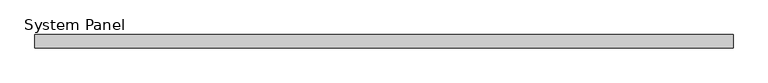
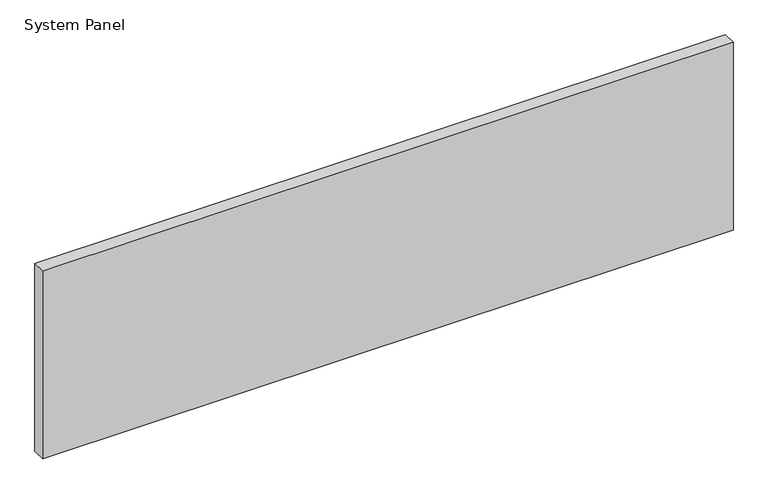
"""IFC4 building model written with IfcOpenShell, lengths in millimetres: plate geometry, System Panel : Glazed - ACMP (AL-1)."""

from ifc_helpers import new_model, si_unit, origin, origin_with_axes, place, context, project, spatial, polyline, outline, extrude, source, transform, mapped, element, save


def system_panel_4e23bdb2(model_context):
    return source(origin(), model_context, "Body", "SweptSolid", [
        extrude(outline(polyline([(664.1925819, 0.0), (-664.1925819, 0.0), (-664.1925819, 25.4), (664.1925819, 25.4), (664.1925819, 0.0)])), origin_with_axes(), (0.0, 0.0, 1.0), 382.2704451),
    ])


if __name__ == "__main__":
    model = new_model("IFC4")
    model_context = context("Model", 3, world=origin())
    ifc_project = project(units=[si_unit("LENGTHUNIT", "METRE", prefix="MILLI")], contexts=[model_context])
    site = spatial("IfcSite", under=ifc_project)
    building = spatial("IfcBuilding", under=site)
    placement = place(None, origin())
    system_panel_shape = system_panel_4e23bdb2(model_context)
    element("IfcPlate", 1, ObjectType="System Panel : Glazed - ACMP (AL-1)", at=placement, inside=building, context=model_context, shape_type="MappedRepresentation", body=[
        mapped(system_panel_shape, transform((0.0, 0.0, 0.0), x_axis=(1.0, 0.0, 0.0), y_axis=(0.0, 1.0, 0.0), z_axis=(0.0, 0.0, 1.0))),
    ])
    save(model, "model.ifc")
